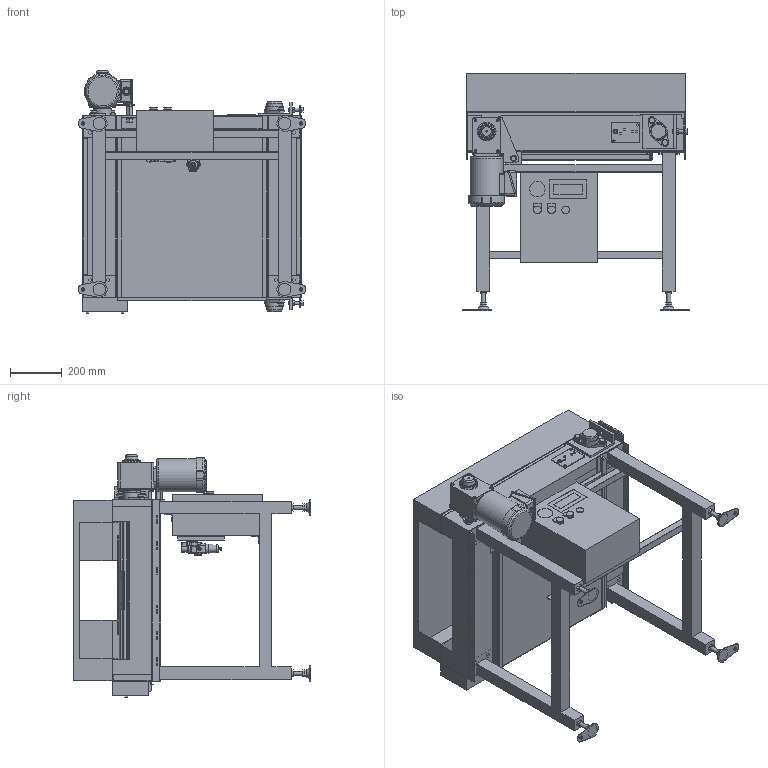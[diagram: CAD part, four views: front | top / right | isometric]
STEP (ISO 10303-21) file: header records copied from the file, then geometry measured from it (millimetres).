
FILE_DESCRIPTION (( 'STEP AP214' ), '1' );
FILE_NAME ('SLS-H-3-150-150-R.STEP', '2023-04-20T05:14:21', ( '' ), ( '' ), 'SwSTEP 2.0', 'SolidWorks 2017', '' );
FILE_SCHEMA (( 'AUTOMOTIVE_DESIGN' ));
Length unit declared in the file: millimetre
Products named in the file (1): SLS-H-3-150-150-R
Bounding box: 884 x 920.6 x 939.5 mm (x, y, z)
Volume: 49646451.9 mm3; surface area: 9103154.9 mm2
Topology: 82 solids, 82 shells, 3086 faces, 8279 edges, 5318 vertices
Faces by surface type: plane 2417, cylinder 497, cone 142, bspline 15, torus 11, sphere 4
Full cylindrical faces by diameter (mm): 2.459 x2, 3.2 x4, 4.386 x2, 6 x3, 6.5 x2, 6.8 x3, 7 x4, 7.9 x4, 8 x6, 8.376 x4, 8.5 x6, 9 x1, 9.7 x3, 9.9 x1, 10 x1, 10.5 x4, 11 x5, 11.8 x4, 12 x2, 12.3 x1, 13 x8, 13.8 x1, 14 x10, 15 x1, 15.4 x1, 16 x16, 18 x1, 19 x1, 20 x1, 21 x6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
Entity records: 130273 total; most frequent: CARTESIAN_POINT 18732, ORIENTED_EDGE 16024, DIRECTION 15131, EDGE_CURVE 8012, VECTOR 6509, LINE 6509, VERTEX_POINT 5258, AXIS2_PLACEMENT_3D 4311
